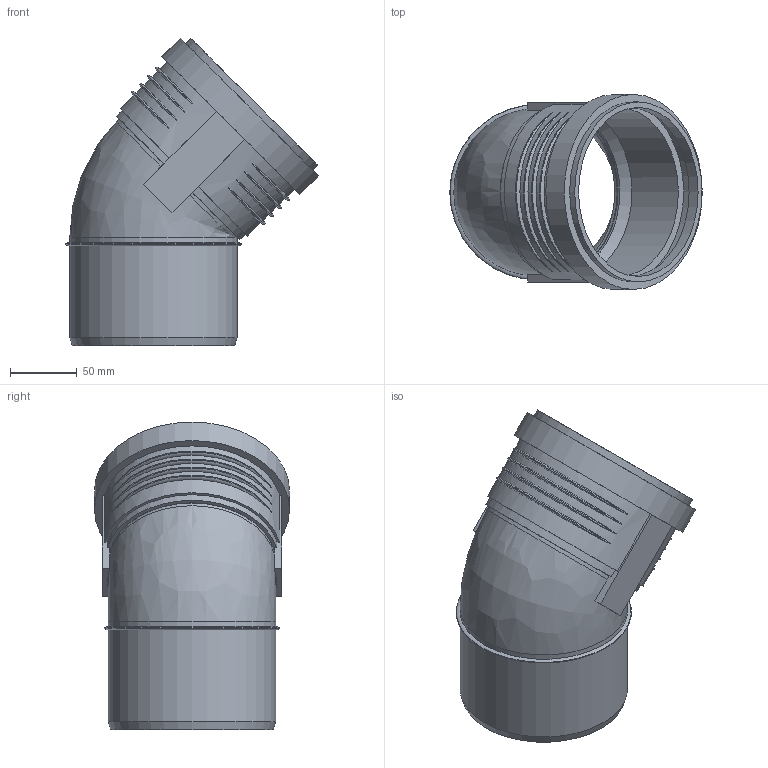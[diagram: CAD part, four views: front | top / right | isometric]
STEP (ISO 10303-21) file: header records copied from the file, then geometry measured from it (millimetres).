
FILE_DESCRIPTION(/* description */ (''),/* implementation_level */ '2;1');
FILE_NAME(/* name */ 'Z:\Geberit\Export\NewStep\390622.stp',/* time_stamp */ '2014-04-02T08:15:47+02:00',/* author */ ('ML'),/* organization */ (''),/* preprocessor_version */ 'ST-DEVELOPER v15.2',/* originating_system */ 'Autodesk Inventor 2014',/* authorisation */ '');
FILE_SCHEMA (('AUTOMOTIVE_DESIGN { 1 0 10303 214 3 1 1 }'));
Length unit declared in the file: millimetre
Products named in the file (3): 861593; 861625; 390622
Bounding box: 188.8 x 145.9 x 230.28 mm (x, y, z)
Volume: 392164.2 mm3; surface area: 195435.2 mm2
Topology: 2 solids, 2 shells, 68 faces, 162 edges, 109 vertices
Faces by surface type: torus 28, plane 19, cylinder 18, cone 2, bspline 1
Full cylindrical faces by diameter (mm): 116.8 x2, 117 x1, 125.2 x4, 126.4 x2, 134.6 x1, 137.7 x1, 145.9 x1
Entity records: 2726 total; most frequent: CARTESIAN_POINT 1150, DIRECTION 290, ORIENTED_EDGE 278, EDGE_CURVE 139, AXIS2_PLACEMENT_3D 127, VERTEX_POINT 106, EDGE_LOOP 103, STYLED_ITEM 70
